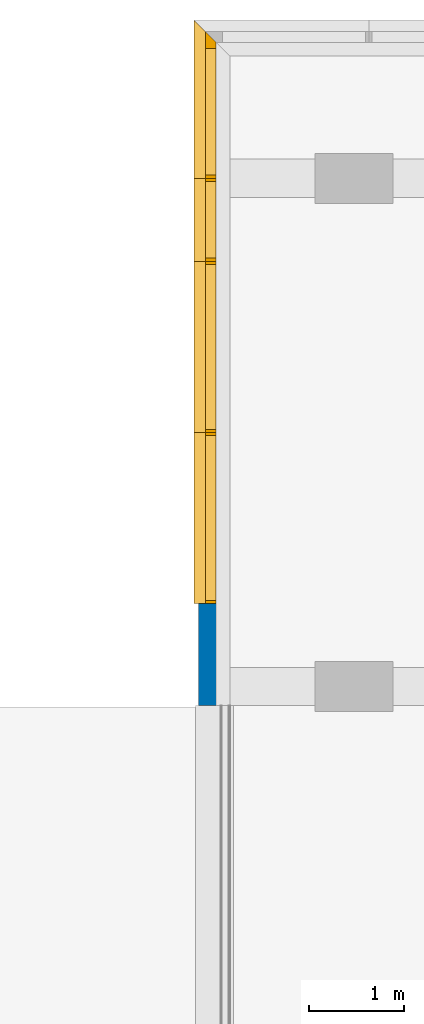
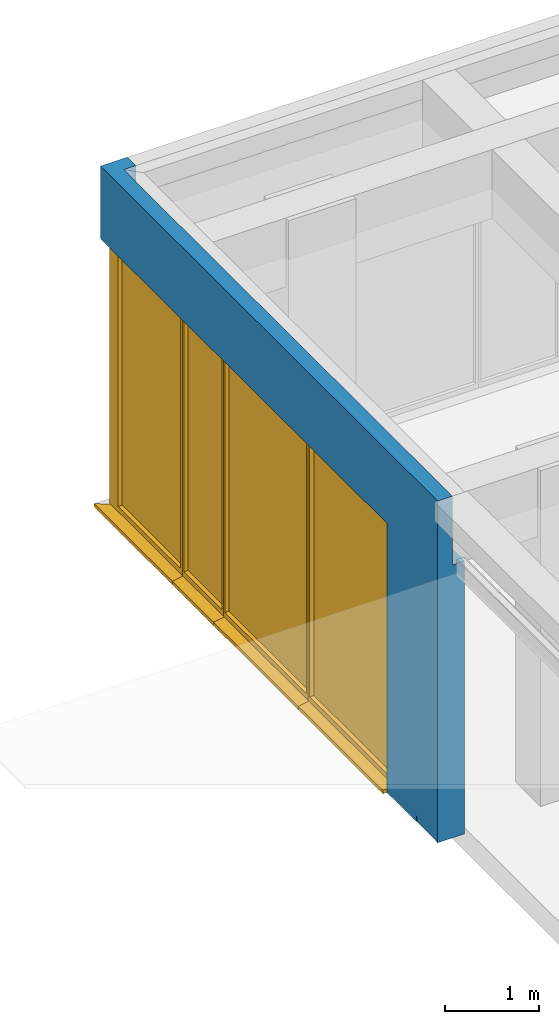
# One storey, part 46 of 117: 4 windows, 1 wall, 4 openings.
"""IFC2X3 building model written with IfcOpenShell, lengths in millimetres."""

from ifc_helpers import new_model, entity, si_unit, converted_unit, derived_unit, money_unit, direction, frame, origin_with_axes, place, context, subcontext, project, spatial, open_shell, faceted_brep, surface_model, source, transform, mapped, material, type_object, type_shapes, element, fill, save


model = new_model("IFC2X3")

# Units and contexts
model_context = context("Model", 3, precision=0.01, world=origin_with_axes(), true_north=direction((0.0, 1.0)))
body_context = subcontext(model_context, "Body", "Model", "MODEL_VIEW")
ifc_project = project(units=[si_unit("LENGTHUNIT", "METRE", prefix="MILLI"), si_unit("AREAUNIT", "SQUARE_METRE"), si_unit("VOLUMEUNIT", "CUBIC_METRE"), converted_unit("PLANEANGLEUNIT", "DEGREE", entity("IfcPlaneAngleMeasure", 0.0174532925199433), si_unit("PLANEANGLEUNIT", "RADIAN"), dimensions=[0, 0, 0, 0, 0, 0, 0]), money_unit("EUR"), converted_unit("TIMEUNIT", "Year", entity("IfcTimeMeasure", 31557600.0), si_unit("TIMEUNIT", "SECOND"), dimensions=[0, 0, 1, 0, 0, 0, 0]), si_unit("MASSUNIT", "GRAM", prefix="KILO"), si_unit("THERMODYNAMICTEMPERATUREUNIT", "DEGREE_CELSIUS"), si_unit("LUMINOUSINTENSITYUNIT", "LUMEN"), si_unit("ENERGYUNIT", "JOULE", prefix="MEGA"), derived_unit("THERMALCONDUCTANCEUNIT", [(si_unit("POWERUNIT", "WATT"), 1), (si_unit("LENGTHUNIT", "METRE"), -1), (si_unit("THERMODYNAMICTEMPERATUREUNIT", "KELVIN"), -1)]), derived_unit("SPECIFICHEATCAPACITYUNIT", [(si_unit("ENERGYUNIT", "JOULE"), 1), (si_unit("MASSUNIT", "GRAM", prefix="KILO"), -1), (si_unit("THERMODYNAMICTEMPERATUREUNIT", "KELVIN"), -1)]), derived_unit("MASSDENSITYUNIT", [(si_unit("MASSUNIT", "GRAM", prefix="KILO"), 1), (si_unit("VOLUMEUNIT", "CUBIC_METRE"), -1)])], contexts=[model_context])

# Site, building, storey
site_placement = place(None, origin_with_axes())
site = spatial("IfcSite", under=ifc_project, at=site_placement, Name="Site", CompositionType="ELEMENT")
building_placement = place(site_placement, origin_with_axes())
building = spatial("IfcBuilding", under=site, at=building_placement, Name="Naam gebouw", CompositionType="ELEMENT")
storey_placement = place(building_placement, frame((0.0, 0.0, 4150.0), z_axis=(0.0, 0.0, 1.0), x_axis=(1.0, 0.0, 0.0)))
storey = spatial("IfcBuildingStorey", under=building, at=storey_placement, Name="1e verdieping N", CompositionType="ELEMENT", Elevation=4150.0)

# Wall, openings, windows
ifc_material = material(Name="ALG - CONSTRUCTIEF")
wall_type = type_object("IfcWallType", Name="ALG - CONSTRUCTIEF 330", PredefinedType="NOTDEFINED")
wall_placement = place(storey_placement, frame((20536.00000000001, 56215.91242510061, -79.9999999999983), z_axis=(0.0, 0.0, 1.0), x_axis=(0.0, -1.0, 0.0)))
wall = element("IfcWall", 1, at=wall_placement, inside=storey, type_object=wall_type, material=ifc_material, Name="_Wand-x", context=body_context, shape_type="Brep", body=[
    faceted_brep([(105.000000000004, -224.9999999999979, 79.99999999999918), (329.9999999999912, 0.0, 79.99999999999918), (104.9999999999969, 0.0, 79.99999999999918), (1610.000000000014, 0.0, 79.99999999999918), (1610.000000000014, -224.9999999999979, 79.99999999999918), (1610.000000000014, 0.0, 3479.999999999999), (329.9999999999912, 0.0, 3479.999999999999), (69.99999999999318, 0.0, 3479.999999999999), (0.0, 0.0, 3479.999999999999), (0.0, 0.0, 4419.999999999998), (179.9968579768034, 0.0, 4419.999999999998), (179.9968579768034, 0.0, 4169.999999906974), (329.9968579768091, 0.0, 4169.999999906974), (1410.000000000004, 0.0, 4169.999999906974), (1410.000000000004, 0.0, 3529.999999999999), (1810.000000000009, 0.0, 3529.999999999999), (1810.000000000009, 0.0, 4169.999999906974), (6740.000000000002, 0.0, 4169.999999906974), (6740.000000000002, 0.0, 3529.999999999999), (7140.000000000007, 0.0, 3529.999999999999), (7140.000000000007, 0.0, 0.0), (104.9999999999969, 0.0, 0.0), (6070.000000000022, 0.0, 79.99999999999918), (6070.000000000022, 0.0, 3479.999999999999), (105.000000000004, -224.9999999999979, 0.0), (1610.000000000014, -224.9999999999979, 0.0), (6070.000000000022, -224.9999999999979, 79.99999999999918), (70.00000000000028, -259.999999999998, 3479.999999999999), (1610.000000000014, -259.999999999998, 3479.999999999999), (0.0, -329.9999999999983, 3479.999999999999), (0.0, -329.9999999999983, 4419.999999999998), (7140.000000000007, -330.0000000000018, 4419.999999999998), (7139.999948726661, -150.0000000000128, 4419.999999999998), (179.9968579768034, -150.0000000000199, 4419.999999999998), (179.9968579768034, -150.0000000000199, 4169.999999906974), (1410.000000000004, -150.0000000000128, 4169.999999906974), (1410.000000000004, -150.0000000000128, 3529.999999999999), (1810.000000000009, -150.0000000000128, 3529.999999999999), (1810.000000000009, -150.0000000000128, 4169.999999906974), (6740.000000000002, -150.0000000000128, 4169.999999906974), (6740.000000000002, -150.0000000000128, 3529.999999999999), (7140.000000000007, -150.0000000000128, 3529.999999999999), (7140.000000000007, -330.0000000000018, 0.0), (7089.999998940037, -330.0000000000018, 0.0), (7089.999998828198, -324.9999999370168, 0.0), (6689.999998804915, -324.9999999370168, 0.0), (6689.999998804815, -330.0000000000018, 0.0), (6070.000000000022, -330.0000000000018, 0.0), (6070.000000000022, -224.9999999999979, 0.0), (6070.000000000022, -329.9999999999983, 3479.999999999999), (1610.000000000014, -330.0000000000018, 3479.999999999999), (6689.999998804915, -330.0000000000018, 79.9999999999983), (7089.999998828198, -330.0000000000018, 79.9999999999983), (7089.999998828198, -324.9999999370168, 79.9999999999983), (6689.999998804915, -324.9999999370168, 79.9999999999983)], [[[0, 1, 2]], [[3, 1, 0, 4]], [[5, 6, 7, 8, 9, 10, 11, 12, 13, 14, 15, 16, 17, 18, 19, 20, 21, 2, 1, 3, 22, 23]], [[24, 0, 2, 21]], [[0, 24, 25, 4]], [[3, 4, 26, 22]], [[27, 6, 5, 28]], [[6, 27, 7]], [[27, 29, 8, 7]], [[8, 29, 30, 9]], [[10, 9, 30, 31, 32, 33]], [[34, 11, 10, 33]], [[13, 12, 11, 34, 35]], [[36, 14, 13, 35]], [[37, 15, 14, 36]], [[37, 38, 16, 15]], [[17, 16, 38, 39]], [[40, 18, 17, 39]], [[41, 19, 18, 40]], [[32, 31, 42, 20, 19, 41]], [[25, 24, 21, 20, 42, 43, 44, 45, 46, 47, 48]], [[22, 26, 48, 47, 49, 23]], [[28, 5, 23, 49, 50]], [[4, 25, 48, 26]], [[29, 27, 28, 50]], [[29, 50, 49, 47, 46, 51, 52, 43, 42, 31, 30]], [[37, 36, 35, 34, 33, 32, 41, 40, 39, 38]], [[52, 53, 44, 43]], [[53, 54, 45, 44]], [[54, 51, 46, 45]], [[54, 53, 52, 51]]]),
])
opening_1_placement = place(wall_placement, frame((897.0000000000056, 0.0, 79.99999999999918), z_axis=(0.0, 0.0, 1.0), x_axis=(1.0, 0.0, 0.0)))
opening_1 = element("IfcOpeningElement", 2, at=opening_1_placement, cuts=wall, Name="_Merk-029", context=body_context, shape_type="Brep", body=[
    faceted_brep([(713.0000000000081, -224.9999999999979, 0.0), (-792.0000000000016, -224.9999999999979, 0.0), (-566.0000000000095, 1.000000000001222, 0.0), (713.0000000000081, 1.000000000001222, 0.0), (713.0000000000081, -224.9999999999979, -80.00000000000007), (-792.0000000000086, -224.9999999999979, -80.00000000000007), (-898.0000000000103, -330.9999999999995, -80.00000000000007), (-898.0000000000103, -330.9999999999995, 0.0), (-897.0000000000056, -329.9999999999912, 0.0), (-897.0000000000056, -329.9999999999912, 3400.0), (-566.0000000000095, 1.000000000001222, 3400.0), (713.0000000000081, 1.000000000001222, 3400.0), (713.0000000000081, -259.999999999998, 3400.0), (713.0000000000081, -259.999999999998, 0.0), (713.0000000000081, -330.9999999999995, 0.0), (713.0000000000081, -330.9999999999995, -80.00000000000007), (713.0000000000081, -330.9999999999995, 3400.0), (-897.0000000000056, -330.9999999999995, 3400.0), (-897.0000000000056, -330.9999999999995, 0.0)], [[[0, 1, 2, 3]], [[1, 0, 4, 5]], [[2, 1, 5, 6, 7, 8, 9, 10]], [[11, 3, 2, 10]], [[0, 3, 11, 12, 13, 14, 15, 4]], [[5, 4, 15, 6]], [[14, 16, 17, 18, 7, 6, 15]], [[7, 18, 8]], [[8, 18, 17, 9]], [[9, 17, 16, 12, 11, 10]], [[14, 13, 12, 16]]]),
])
opening_2_placement = place(wall_placement, frame((2045.000000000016, 0.0, 79.99999999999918), z_axis=(0.0, 0.0, 1.0), x_axis=(1.0, 0.0, 0.0)))
opening_2 = element("IfcOpeningElement", 3, at=opening_2_placement, cuts=wall, Name="_Merk-028", context=body_context, shape_type="Brep", body=[
    faceted_brep([(435.0000000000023, -224.9999999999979, 0.0), (-435.0000000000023, -224.9999999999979, 0.0), (-435.0000000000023, 1.000000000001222, 0.0), (435.0000000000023, 1.000000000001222, 0.0), (435.0000000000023, -224.9999999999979, -80.00000000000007), (-435.0000000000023, -224.9999999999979, -80.00000000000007), (-435.0000000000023, -259.999999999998, 0.0), (-435.0000000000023, -259.999999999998, 3400.0), (-435.0000000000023, 1.000000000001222, 3400.0), (-435.0000000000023, -330.9999999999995, -80.00000000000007), (-435.0000000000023, -330.9999999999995, 0.0), (435.0000000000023, 1.000000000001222, 3400.0), (435.0000000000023, -259.999999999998, 3400.0), (435.0000000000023, -259.999999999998, 0.0), (435.0000000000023, -330.9999999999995, 0.0), (435.0000000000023, -330.9999999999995, -80.00000000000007), (-435.0000000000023, -330.9999999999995, 3400.0), (435.0000000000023, -330.9999999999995, 3400.0)], [[[0, 1, 2, 3]], [[1, 0, 4, 5]], [[6, 7, 8, 2, 1, 5, 9, 10]], [[11, 3, 2, 8]], [[0, 3, 11, 12, 13, 14, 15, 4]], [[5, 4, 15, 9]], [[6, 10, 16, 7]], [[7, 16, 17, 12, 11, 8]], [[14, 17, 16, 10, 9, 15]], [[14, 13, 12, 17]]]),
])
opening_3_placement = place(wall_placement, frame((5172.500000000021, 0.0, 79.99999999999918), z_axis=(0.0, 0.0, 1.0), x_axis=(1.0, 0.0, 0.0)))
opening_3 = element("IfcOpeningElement", 4, at=opening_3_placement, cuts=wall, Name="_Merk-027", context=body_context, shape_type="Brep", body=[
    faceted_brep([(897.5000000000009, -224.9999999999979, 0.0), (-897.5000000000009, -224.9999999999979, 0.0), (-897.5000000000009, 1.000000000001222, 0.0), (897.5000000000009, 1.000000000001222, 0.0), (897.5000000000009, -224.9999999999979, -80.00000000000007), (-897.5000000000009, -224.9999999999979, -80.00000000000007), (-897.5000000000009, -259.999999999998, 0.0), (-897.5000000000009, -259.999999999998, 3400.0), (-897.5000000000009, 1.000000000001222, 3400.0), (-897.5000000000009, -330.9999999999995, -80.00000000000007), (-897.5000000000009, -330.9999999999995, 0.0), (897.5000000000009, 1.000000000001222, 3400.0), (897.5000000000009, -259.999999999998, 3400.0), (897.5000000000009, -259.999999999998, 0.0), (897.5000000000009, -330.9999999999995, 0.0), (897.5000000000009, -330.9999999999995, -80.00000000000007), (-897.5000000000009, -330.9999999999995, 3400.0), (897.5000000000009, -330.9999999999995, 3400.0)], [[[0, 1, 2, 3]], [[1, 0, 4, 5]], [[6, 7, 8, 2, 1, 5, 9, 10]], [[11, 3, 2, 8]], [[0, 3, 11, 12, 13, 14, 15, 4]], [[5, 4, 15, 9]], [[6, 10, 16, 7]], [[7, 16, 17, 12, 11, 8]], [[14, 17, 16, 10, 9, 15]], [[14, 13, 12, 17]]]),
])
opening_4_placement = place(wall_placement, frame((3377.500000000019, 0.0, 79.99999999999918), z_axis=(0.0, 0.0, 1.0), x_axis=(1.0, 0.0, 0.0)))
opening_4 = element("IfcOpeningElement", 5, at=opening_4_placement, cuts=wall, Name="_Merk-027", context=body_context, shape_type="Brep", body=[
    faceted_brep([(897.5000000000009, -224.9999999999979, 0.0), (-897.5000000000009, -224.9999999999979, 0.0), (-897.5000000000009, 1.000000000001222, 0.0), (897.5000000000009, 1.000000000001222, 0.0), (897.5000000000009, -224.9999999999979, -80.00000000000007), (-897.5000000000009, -224.9999999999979, -80.00000000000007), (-897.5000000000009, -259.999999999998, 0.0), (-897.5000000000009, -259.999999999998, 3400.0), (-897.5000000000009, 1.000000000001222, 3400.0), (-897.5000000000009, -330.9999999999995, -80.00000000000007), (-897.5000000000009, -330.9999999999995, 0.0), (897.5000000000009, 1.000000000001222, 3400.0), (897.5000000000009, -259.999999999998, 3400.0), (897.5000000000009, -259.999999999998, 0.0), (897.5000000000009, -330.9999999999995, 0.0), (897.5000000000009, -330.9999999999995, -80.00000000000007), (-897.5000000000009, -330.9999999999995, 3400.0), (897.5000000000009, -330.9999999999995, 3400.0)], [[[0, 1, 2, 3]], [[1, 0, 4, 5]], [[6, 7, 8, 2, 1, 5, 9, 10]], [[11, 3, 2, 8]], [[0, 3, 11, 12, 13, 14, 15, 4]], [[5, 4, 15, 9]], [[6, 10, 16, 7]], [[7, 16, 17, 12, 11, 8]], [[14, 17, 16, 10, 9, 15]], [[14, 13, 12, 17]]]),
])
window_style_1 = type_object("IfcWindowStyle", Name="Rnx verticaal 26", ConstructionType="NOTDEFINED", OperationType="SINGLE_PANEL", ParameterTakesPrecedence=False, Sizeable=False)
shared_shape_1 = source(origin_with_axes(), body_context, "Body", "SurfaceModel", [
    faceted_brep([(897.5, -79.00000000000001, 0.0), (-897.5, -79.00000000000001, 0.0), (-897.5, -94.0, 0.0), (897.5, -94.0, 0.0), (897.5, -79.0, -80.00000000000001), (-897.5, -79.0, -79.9999999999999), (-897.5, -199.78125, -79.99999999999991), (-897.5, -201.1209959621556, -74.99999999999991), (-897.5, -204.78125, -71.33974596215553), (-897.5, -209.78125, -69.99999999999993), (-897.5, -214.78125, -71.33974596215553), (-897.5, -218.4415040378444, -74.99999999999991), (-897.5, -219.78125, -79.99999999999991), (-897.5, -234.0, -79.99999999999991), (-897.5, -234.0, -34.68577729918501), (-897.5, -94.0, -9.999999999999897), (897.5, -94.0, -10.00000000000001), (897.5, -234.0, -34.68577729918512), (897.5, -234.0, -80.00000000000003), (897.5, -219.78125, -80.00000000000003), (897.5, -218.4415040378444, -75.00000000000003), (897.5, -214.78125, -71.33974596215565), (897.5, -209.78125, -70.00000000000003), (897.5, -204.78125, -71.33974596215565), (897.5, -201.1209959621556, -75.00000000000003), (897.5, -199.78125, -80.00000000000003)], [[[0, 1, 2, 3]], [[4, 5, 1, 0]], [[1, 5, 6, 7, 8, 9, 10, 11, 12, 13, 14, 15, 2]], [[3, 2, 15, 16]], [[0, 3, 16, 17, 18, 19, 20, 21, 22, 23, 24, 25, 4]], [[25, 6, 5, 4]], [[24, 7, 6, 25]], [[23, 8, 7, 24]], [[22, 9, 8, 23]], [[21, 10, 9, 22]], [[20, 11, 10, 21]], [[19, 12, 11, 20]], [[18, 13, 12, 19]], [[17, 14, 13, 18]], [[16, 15, 14, 17]]]),
    faceted_brep([(864.0, -114.0000000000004, 3333.0), (897.5, -114.0000000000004, 3333.0), (897.5, 0.0, 3333.0), (864.0, 0.0, 3333.0), (864.0, -114.0, 66.99999999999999), (897.5, -114.0, 66.99999999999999), (897.5, 0.0, 67.0), (864.0, 0.0, 67.0)], [[[0, 1, 2, 3]], [[0, 4, 5, 1]], [[1, 5, 6, 2]], [[3, 2, 6, 7]], [[4, 0, 3, 7]], [[5, 4, 7, 6]]]),
    faceted_brep([(-864.0, -114.0, 66.99999999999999), (-897.5, -114.0, 66.99999999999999), (-897.5, 0.0, 67.0), (-864.0, 0.0, 67.0), (-864.0, -114.0000000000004, 3333.0), (-897.5, -114.0000000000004, 3333.0), (-897.5, 0.0, 3333.0), (-864.0, 0.0, 3333.0)], [[[0, 1, 2, 3]], [[0, 4, 5, 1]], [[1, 5, 6, 2]], [[3, 2, 6, 7]], [[4, 0, 3, 7]], [[5, 4, 7, 6]]]),
    faceted_brep([(-864.0, -114.0000000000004, 3333.0), (-897.5, -114.0000000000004, 3333.0), (-897.5, 0.0, 3333.0), (-864.0, 0.0, 3333.0), (864.0, -114.0000000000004, 3333.0), (897.5, -114.0000000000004, 3333.0), (897.5, -114.0000000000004, 3400.0), (-897.5, -114.0000000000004, 3400.0), (-897.5, 0.0, 3400.0), (897.5, 0.0, 3400.0), (897.5, 0.0, 3333.0), (864.0, 0.0, 3333.0)], [[[0, 1, 2, 3]], [[0, 4, 5, 6, 7, 1]], [[1, 7, 8, 2]], [[3, 2, 8, 9, 10, 11]], [[4, 0, 3, 11]], [[5, 4, 11, 10]], [[6, 5, 10, 9]], [[7, 6, 9, 8]]]),
    faceted_brep([(864.0, -114.0, 66.99999999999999), (897.5, -114.0, 66.99999999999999), (897.5, 0.0, 67.0), (864.0, 0.0, 67.0), (-864.0, -114.0, 66.99999999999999), (-897.5, -114.0, 66.99999999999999), (-897.5, -114.0, 0.0), (897.5, -114.0, 0.0), (897.5, 0.0, 0.0), (-897.5, 0.0, 0.0), (-897.5, 0.0, 67.0), (-864.0, 0.0, 67.0)], [[[0, 1, 2, 3]], [[0, 4, 5, 6, 7, 1]], [[1, 7, 8, 2]], [[3, 2, 8, 9, 10, 11]], [[4, 0, 3, 11]], [[5, 4, 11, 10]], [[6, 5, 10, 9]], [[7, 6, 9, 8]]]),
    surface_model("IfcShellBasedSurfaceModel", [(864.0, -64.0, 66.99999999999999), (864.0, -64.0000000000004, 3333.0), (-864.0, -64.0000000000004, 3333.0), (-864.0, -64.0, 66.99999999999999)], [open_shell([[[0, 1, 2, 3]]])]),
    surface_model("IfcShellBasedSurfaceModel", [(864.0, -44.0, 66.99999999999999), (-864.0, -44.0, 66.99999999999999), (-864.0, -44.0000000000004, 3333.0), (864.0, -44.0000000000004, 3333.0)], [open_shell([[[0, 1, 2, 3]]])]),
])
type_shapes(window_style_1, [shared_shape_1])
window_1_placement = place(opening_3_placement, frame((-897.5000000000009, 0.0, 0.0), z_axis=(0.0, 0.0, 1.0), x_axis=(1.0, 0.0, 0.0)))
window_1 = element("IfcWindow", 6, at=window_1_placement, inside=storey, type_object=window_style_1, Name="_Merk-027", ObjectType="WINDOW", OverallHeight=3400.0, OverallWidth=1795.0, context=body_context, shape_type="MappedRepresentation", body=[
    mapped(shared_shape_1, transform((897.5000000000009, -145.9999999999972, 0.0))),
])
fill(opening_3, window_1)
window_2_placement = place(opening_4_placement, frame((-897.5000000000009, 0.0, 0.0), z_axis=(0.0, 0.0, 1.0), x_axis=(1.0, 0.0, 0.0)))
window_2 = element("IfcWindow", 7, at=window_2_placement, inside=storey, type_object=window_style_1, Name="_Merk-027", ObjectType="WINDOW", OverallHeight=3400.0, OverallWidth=1795.0, context=body_context, shape_type="MappedRepresentation", body=[
    mapped(shared_shape_1, transform((897.5000000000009, -145.9999999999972, 0.0))),
])
fill(opening_4, window_2)
window_style_2 = type_object("IfcWindowStyle", Name="R1 26", ConstructionType="NOTDEFINED", OperationType="SINGLE_PANEL", ParameterTakesPrecedence=False, Sizeable=False)
shared_shape_2 = source(origin_with_axes(), body_context, "Body", "SurfaceModel", [
    faceted_brep([(-435.0, -79.00000000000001, 0.0), (-435.0, -94.0, 0.0), (435.0, -94.0, 0.0), (435.0, -79.00000000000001, 0.0), (-435.0, -79.0, -80.00000000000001), (-435.0, -199.78125, -80.00000000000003), (-435.0, -201.1209959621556, -75.00000000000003), (-435.0, -204.78125, -71.33974596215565), (-435.0, -209.78125, -70.00000000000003), (-435.0, -214.78125, -71.33974596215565), (-435.0, -218.4415040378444, -75.00000000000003), (-435.0, -219.78125, -80.00000000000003), (-435.0, -234.0, -80.00000000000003), (-435.0, -234.0, -34.68577729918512), (-435.0, -94.0, -10.00000000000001), (435.0, -94.0, -9.999999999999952), (435.0, -234.0, -34.68577729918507), (435.0, -234.0, -79.99999999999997), (435.0, -219.78125, -79.99999999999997), (435.0, -218.4415040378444, -74.99999999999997), (435.0, -214.78125, -71.33974596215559), (435.0, -209.78125, -69.99999999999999), (435.0, -204.78125, -71.33974596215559), (435.0, -201.1209959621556, -74.99999999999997), (435.0, -199.78125, -79.99999999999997), (435.0, -79.0, -79.99999999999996)], [[[0, 1, 2, 3]], [[0, 4, 5, 6, 7, 8, 9, 10, 11, 12, 13, 14, 1]], [[1, 14, 15, 2]], [[3, 2, 15, 16, 17, 18, 19, 20, 21, 22, 23, 24, 25]], [[4, 0, 3, 25]], [[5, 4, 25, 24]], [[6, 5, 24, 23]], [[7, 6, 23, 22]], [[8, 7, 22, 21]], [[9, 8, 21, 20]], [[10, 9, 20, 19]], [[11, 10, 19, 18]], [[12, 11, 18, 17]], [[13, 12, 17, 16]], [[14, 13, 16, 15]]]),
    faceted_brep([(-401.4999999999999, -114.0000000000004, 3333.0), (-401.4999999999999, 0.0, 3333.0), (-435.0, 0.0, 3333.0), (-435.0, -114.0000000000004, 3333.0), (-401.4999999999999, -114.0, 66.99999999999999), (-401.4999999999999, 0.0, 67.0), (-435.0, 0.0, 67.0), (-435.0, -114.0, 66.99999999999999)], [[[0, 1, 2, 3]], [[4, 5, 1, 0]], [[1, 5, 6, 2]], [[3, 2, 6, 7]], [[0, 3, 7, 4]], [[7, 6, 5, 4]]]),
    faceted_brep([(401.4999999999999, -114.0, 66.99999999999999), (401.4999999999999, 0.0, 67.0), (435.0, 0.0, 67.0), (435.0, -114.0, 66.99999999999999), (401.4999999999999, -114.0000000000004, 3333.0), (401.4999999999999, 0.0, 3333.0), (435.0, 0.0, 3333.0), (435.0, -114.0000000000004, 3333.0)], [[[0, 1, 2, 3]], [[4, 5, 1, 0]], [[1, 5, 6, 2]], [[3, 2, 6, 7]], [[0, 3, 7, 4]], [[7, 6, 5, 4]]]),
    faceted_brep([(-401.4999999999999, -114.0, 66.99999999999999), (-401.4999999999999, 0.0, 67.0), (-435.0, 0.0, 67.0), (-435.0, -114.0, 66.99999999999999), (401.4999999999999, -114.0, 66.99999999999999), (401.4999999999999, 0.0, 67.0), (435.0, 0.0, 67.0), (435.0, 0.0, 0.0), (-435.0, 0.0, 0.0), (-435.0, -114.0, 0.0), (435.0, -114.0, 0.0), (435.0, -114.0, 66.99999999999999)], [[[0, 1, 2, 3]], [[4, 5, 1, 0]], [[1, 5, 6, 7, 8, 2]], [[3, 2, 8, 9]], [[0, 3, 9, 10, 11, 4]], [[11, 6, 5, 4]], [[10, 7, 6, 11]], [[9, 8, 7, 10]]]),
    faceted_brep([(401.4999999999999, -114.0000000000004, 3333.0), (401.4999999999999, 0.0, 3333.0), (435.0, 0.0, 3333.0), (435.0, -114.0000000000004, 3333.0), (-401.4999999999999, -114.0000000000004, 3333.0), (-401.4999999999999, 0.0, 3333.0), (-435.0, 0.0, 3333.0), (-435.0, 0.0, 3400.0), (435.0, 0.0, 3400.0), (435.0, -114.0000000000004, 3400.0), (-435.0, -114.0000000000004, 3400.0), (-435.0, -114.0000000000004, 3333.0)], [[[0, 1, 2, 3]], [[4, 5, 1, 0]], [[1, 5, 6, 7, 8, 2]], [[3, 2, 8, 9]], [[0, 3, 9, 10, 11, 4]], [[11, 6, 5, 4]], [[10, 7, 6, 11]], [[9, 8, 7, 10]]]),
    surface_model("IfcShellBasedSurfaceModel", [(-401.4999999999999, -64.0, 66.99999999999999), (401.4999999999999, -64.0, 66.99999999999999), (401.4999999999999, -64.0000000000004, 3333.0), (-401.4999999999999, -64.0000000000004, 3333.0)], [open_shell([[[0, 1, 2, 3]]])]),
    surface_model("IfcShellBasedSurfaceModel", [(-401.4999999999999, -44.0, 66.99999999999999), (-401.4999999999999, -44.0000000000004, 3333.0), (401.4999999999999, -44.0000000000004, 3333.0), (401.4999999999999, -44.0, 66.99999999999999)], [open_shell([[[0, 1, 2, 3]]])]),
])
type_shapes(window_style_2, [shared_shape_2])
window_3_placement = place(opening_2_placement, frame((-435.0000000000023, 0.0, 0.0), z_axis=(0.0, 0.0, 1.0), x_axis=(1.0, 0.0, 0.0)))
window_3 = element("IfcWindow", 8, at=window_3_placement, inside=storey, type_object=window_style_2, Name="_Merk-028", ObjectType="WINDOW", OverallHeight=3400.0, OverallWidth=870.0, context=body_context, shape_type="MappedRepresentation", body=[
    mapped(shared_shape_2, transform((435.0000000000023, -145.9999999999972, 0.0))),
])
fill(opening_2, window_3)
window_4_placement = place(opening_1_placement, frame((-713.0000000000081, 0.0, 0.0), z_axis=(0.0, 0.0, 1.0), x_axis=(1.0, 0.0, 0.0)))
window_4 = element("IfcWindow", 9, at=window_4_placement, inside=storey, type_object=window_style_1, Name="_Merk-029", ObjectType="WINDOW", OverallHeight=3400.0, OverallWidth=1426.0, context=body_context, shape_type="SurfaceModel", body=[
    faceted_brep([(-94.0000000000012, -239.9999999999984, 0.0), (1426.000000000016, -239.9999999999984, 0.0), (1426.000000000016, -224.9999999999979, 0.0), (-79.00000000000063, -224.9999999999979, 0.0), (-94.0000000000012, -239.9999999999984, -9.999999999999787), (1426.000000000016, -239.9999999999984, -9.999999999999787), (1426.000000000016, -379.999999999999, -34.68577729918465), (1426.000000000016, -379.999999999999, -80.00000000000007), (1426.000000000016, -365.7812499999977, -80.00000000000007), (1426.000000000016, -364.4415040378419, -75.00000000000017), (1426.000000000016, -360.7812499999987, -71.3397459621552), (1426.000000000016, -355.7812499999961, -70.00000000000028), (1426.000000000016, -350.7812499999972, -71.3397459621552), (1426.000000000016, -347.120995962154, -75.00000000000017), (1426.000000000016, -345.7812499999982, -80.00000000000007), (1426.000000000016, -224.9999999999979, -80.00000000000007), (-79.00000000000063, -224.9999999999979, -80.00000000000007), (-199.7812500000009, -345.7812499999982, -80.00000000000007), (-201.1209959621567, -347.120995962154, -75.00000000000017), (-204.7812499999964, -350.7812499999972, -71.3397459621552), (-209.7812499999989, -355.7812499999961, -70.00000000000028), (-214.7812500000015, -360.7812499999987, -71.3397459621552), (-218.4415040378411, -364.4415040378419, -75.00000000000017), (-219.7812499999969, -365.7812499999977, -80.00000000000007), (-234.0000000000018, -379.9999999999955, -80.00000000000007), (-234.0000000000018, -379.9999999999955, -34.68577729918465)], [[[0, 1, 2, 3]], [[4, 5, 1, 0]], [[2, 1, 5, 6, 7, 8, 9, 10, 11, 12, 13, 14, 15]], [[3, 2, 15, 16]], [[3, 16, 17, 18, 19, 20, 21, 22, 23, 24, 25, 4, 0]], [[25, 6, 5, 4]], [[24, 7, 6, 25]], [[23, 8, 7, 24]], [[22, 9, 8, 23]], [[21, 10, 9, 22]], [[20, 11, 10, 21]], [[19, 12, 11, 20]], [[18, 13, 12, 19]], [[17, 14, 13, 18]], [[16, 15, 14, 17]]]),
    faceted_brep([(-113.9999999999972, -259.999999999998, 3332.999999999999), (-113.9999999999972, -259.999999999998, 67.00000000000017), (67.00000000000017, -259.999999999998, 67.00000000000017), (67.00000000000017, -259.999999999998, 3332.999999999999), (0.0, -145.9999999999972, 3332.999999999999), (0.0, -145.9999999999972, 67.00000000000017), (67.00000000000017, -145.9999999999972, 67.00000000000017), (67.00000000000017, -145.9999999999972, 3332.999999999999)], [[[0, 1, 2, 3]], [[1, 0, 4, 5]], [[1, 5, 6, 2]], [[3, 2, 6, 7]], [[4, 0, 3, 7]], [[4, 7, 6, 5]]]),
    faceted_brep([(1392.500000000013, -259.999999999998, 67.00000000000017), (1392.500000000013, -145.9999999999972, 67.00000000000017), (1426.000000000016, -145.9999999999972, 67.00000000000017), (1426.000000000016, -259.999999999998, 67.00000000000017), (1392.500000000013, -259.999999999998, 3332.999999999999), (1392.500000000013, -145.9999999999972, 3332.999999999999), (1426.000000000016, -145.9999999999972, 3332.999999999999), (1426.000000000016, -259.999999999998, 3332.999999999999)], [[[0, 1, 2, 3]], [[4, 5, 1, 0]], [[1, 5, 6, 2]], [[3, 2, 6, 7]], [[0, 3, 7, 4]], [[7, 6, 5, 4]]]),
    faceted_brep([(67.00000000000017, -259.999999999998, 3332.999999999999), (-113.9999999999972, -259.999999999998, 3332.999999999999), (0.0, -145.9999999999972, 3332.999999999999), (67.00000000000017, -145.9999999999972, 3332.999999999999), (1392.500000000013, -259.999999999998, 3332.999999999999), (1426.000000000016, -259.999999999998, 3332.999999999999), (1426.000000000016, -259.999999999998, 3400.0), (-113.9999999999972, -259.999999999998, 3400.0), (0.0, -145.9999999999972, 3400.0), (1426.000000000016, -145.9999999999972, 3400.0), (1426.000000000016, -145.9999999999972, 3332.999999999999), (1392.500000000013, -145.9999999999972, 3332.999999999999)], [[[0, 1, 2, 3]], [[1, 0, 4, 5, 6, 7]], [[1, 7, 8, 2]], [[3, 2, 8, 9, 10, 11]], [[4, 0, 3, 11]], [[5, 4, 11, 10]], [[6, 5, 10, 9]], [[8, 7, 6, 9]]]),
    faceted_brep([(0.0, -145.9999999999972, 0.0), (-113.9999999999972, -259.999999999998, 0.0), (-113.9999999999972, -259.999999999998, 67.00000000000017), (0.0, -145.9999999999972, 67.00000000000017), (1426.000000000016, -145.9999999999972, 0.0), (1426.000000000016, -259.999999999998, 0.0), (1426.000000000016, -259.999999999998, 67.00000000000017), (1392.500000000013, -259.999999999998, 67.00000000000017), (67.00000000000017, -259.999999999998, 67.00000000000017), (67.00000000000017, -145.9999999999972, 67.00000000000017), (1392.500000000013, -145.9999999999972, 67.00000000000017), (1426.000000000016, -145.9999999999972, 67.00000000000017)], [[[0, 1, 2, 3]], [[1, 0, 4, 5]], [[2, 1, 5, 6, 7, 8]], [[9, 3, 2, 8]], [[0, 3, 9, 10, 11, 4]], [[6, 5, 4, 11]], [[10, 7, 6, 11]], [[8, 7, 10, 9]]]),
    surface_model("IfcShellBasedSurfaceModel", [(67.00000000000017, -209.9999999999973, 67.00000000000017), (1392.500000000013, -209.9999999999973, 67.00000000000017), (1392.500000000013, -209.9999999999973, 3333.0), (67.00000000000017, -209.9999999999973, 3333.0)], [open_shell([[[0, 1, 2, 3]]])]),
    surface_model("IfcShellBasedSurfaceModel", [(67.00000000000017, -189.9999999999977, 67.00000000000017), (67.00000000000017, -189.9999999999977, 3333.0), (1392.500000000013, -189.9999999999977, 3333.0), (1392.500000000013, -189.9999999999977, 67.00000000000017)], [open_shell([[[0, 1, 2, 3]]])]),
])
fill(opening_1, window_4)

save(model, "model.ifc")
